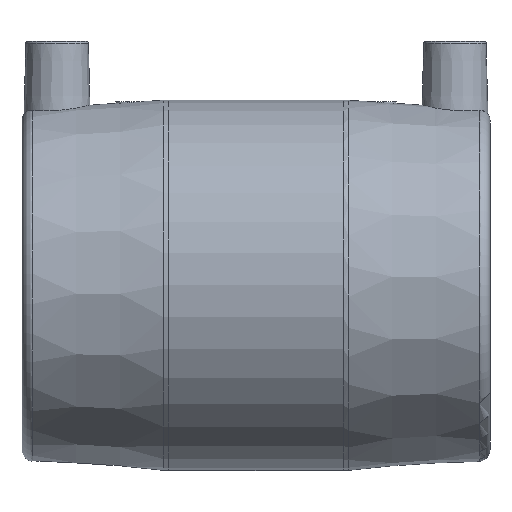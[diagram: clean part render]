
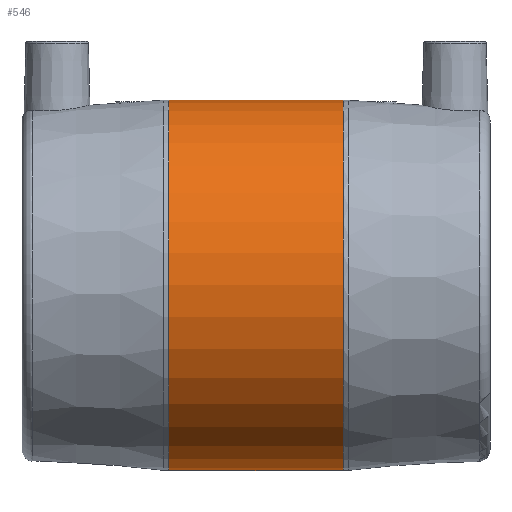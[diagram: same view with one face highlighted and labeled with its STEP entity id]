
A CAD part, front view. The second image highlights one B-rep face of the part: STEP entity #546.
In plain terms, the highlighted cylindrical face has radius 47.5 mm (diameter 95 mm), a full revolution.
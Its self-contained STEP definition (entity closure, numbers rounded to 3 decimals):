
#88=CYLINDRICAL_SURFACE('',#607,47.5);
#112=CIRCLE('',#608,47.5);
#113=CIRCLE('',#609,47.5);
#156=ORIENTED_EDGE('',*,*,#286,.T.);
#157=ORIENTED_EDGE('',*,*,#287,.T.);
#286=EDGE_CURVE('',#350,#350,#112,.F.);
#287=EDGE_CURVE('',#351,#351,#113,.T.);
#350=VERTEX_POINT('',#944);
#351=VERTEX_POINT('',#946);
#408=EDGE_LOOP('',(#156));
#409=EDGE_LOOP('',(#157));
#478=FACE_BOUND('',#408,.T.);
#479=FACE_BOUND('',#409,.T.);
#546=ADVANCED_FACE('',(#478,#479),#88,.T.);
#607=AXIS2_PLACEMENT_3D('',#942,#697,#698);
#608=AXIS2_PLACEMENT_3D('',#943,#699,#700);
#609=AXIS2_PLACEMENT_3D('',#945,#701,#702);
#697=DIRECTION('',(-1.,0.,0.));
#698=DIRECTION('',(0.,0.,1.));
#699=DIRECTION('',(1.,0.,0.));
#700=DIRECTION('',(0.,0.,-1.));
#701=DIRECTION('',(1.,0.,0.));
#702=DIRECTION('',(0.,0.,-1.));
#942=CARTESIAN_POINT('',(-60.,0.,0.));
#943=CARTESIAN_POINT('',(22.325,0.,0.));
#944=CARTESIAN_POINT('',(22.325,0.,-47.5));
#945=CARTESIAN_POINT('',(-22.325,0.,0.));
#946=CARTESIAN_POINT('',(-22.325,0.,-47.5));
